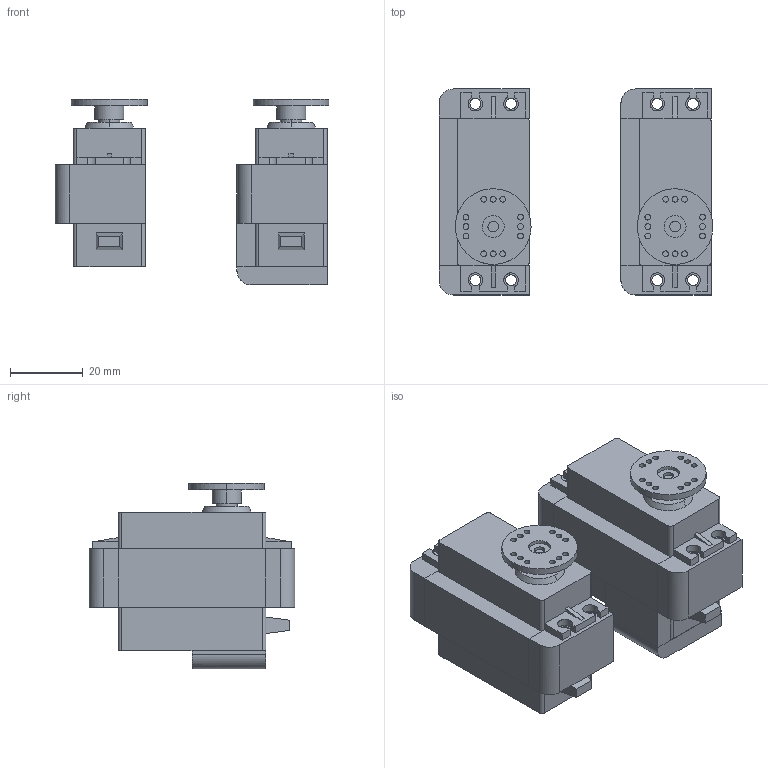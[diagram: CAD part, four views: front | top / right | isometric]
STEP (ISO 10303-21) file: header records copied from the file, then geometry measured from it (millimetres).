
FILE_DESCRIPTION(/* description */ (''),/* implementation_level */ '2;1');
FILE_NAME(/* name */ 'STANDA~1',/* time_stamp */ '2016-10-07T08:55:10-04:00',/* author */ (''),/* organization */ (''),/* preprocessor_version */ 'ST-DEVELOPER v15',/* originating_system */ '',/* authorisation */ '');
FILE_SCHEMA (('AUTOMOTIVE_DESIGN'));
Length unit declared in the file: millimetre
Products named in the file (1): Document
Bounding box: 75.3 x 56.6 x 51.1 mm (x, y, z)
Volume: 86016.9 mm3; surface area: 28900.3 mm2
Topology: 22 solids, 22 shells, 271 faces, 651 edges, 426 vertices
Faces by surface type: plane 156, bspline 115
Entity records: 8152 total; most frequent: CARTESIAN_POINT 3750, ORIENTED_EDGE 1302, EDGE_CURVE 651, VERTEX_POINT 426, EDGE_LOOP 347, B_SPLINE_CURVE_WITH_KNOTS 325, ADVANCED_FACE 271, FACE_OUTER_BOUND 271
